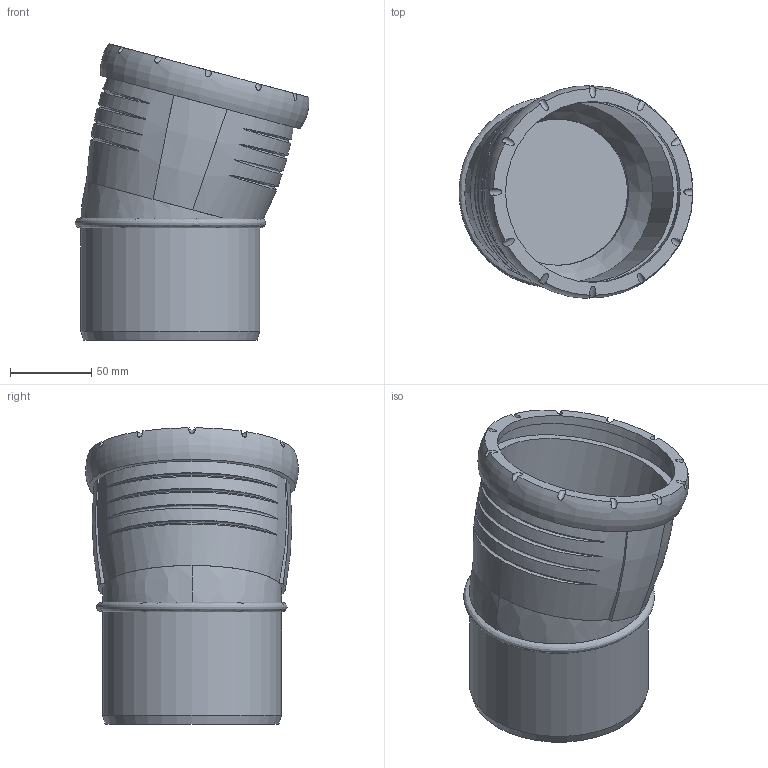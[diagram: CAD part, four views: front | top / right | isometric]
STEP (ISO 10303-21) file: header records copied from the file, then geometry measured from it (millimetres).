
FILE_DESCRIPTION(/* description */ (''),/* implementation_level */ '2;1');
FILE_NAME(/* name */ 'H:\Geberit-Teile\Export\Bogen_TEST\stp\393520.stp',/* time_stamp */ '2017-02-14T10:11:34+01:00',/* author */ ('seihe2'),/* organization */ (''),/* preprocessor_version */ 'ST-DEVELOPER v15.2',/* originating_system */ 'Autodesk Inventor 2014',/* authorisation */ '');
FILE_SCHEMA (('AUTOMOTIVE_DESIGN { 1 0 10303 214 3 1 1 }'));
Length unit declared in the file: millimetre
Products named in the file (1): 393520
Bounding box: 143.97 x 130.87 x 182.43 mm (x, y, z)
Volume: 425119.5 mm3; surface area: 149597.8 mm2
Topology: 2 solids, 2 shells, 57 faces, 144 edges, 100 vertices
Faces by surface type: bspline 26, cylinder 20, plane 8, cone 2, torus 1
Full cylindrical faces by diameter (mm): 90 x1, 101.2 x1, 110.2 x1, 111 x1, 111.3 x1, 121.5 x1
Entity records: 4270 total; most frequent: CARTESIAN_POINT 3015, ORIENTED_EDGE 266, DIRECTION 184, EDGE_CURVE 132, VERTEX_POINT 97, AXIS2_PLACEMENT_3D 92, EDGE_LOOP 80, B_SPLINE_CURVE_WITH_KNOTS 72
